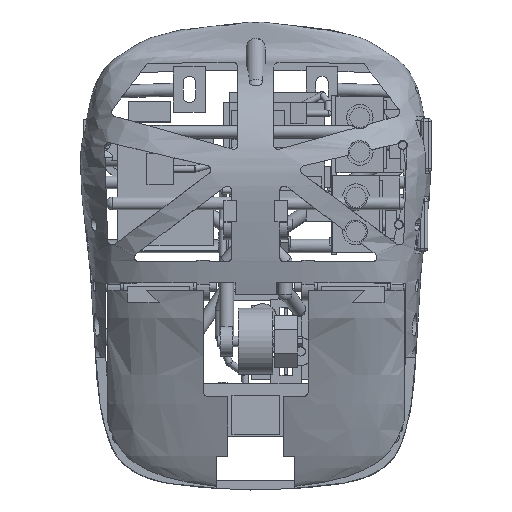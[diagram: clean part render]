
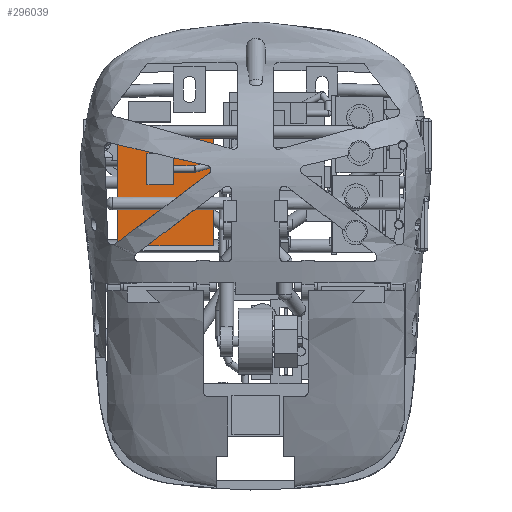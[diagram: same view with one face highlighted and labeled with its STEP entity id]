
A CAD part, top view. The second image highlights one B-rep face of the part: STEP entity #296039.
In plain terms, the highlighted planar face has unit normal (0, 0, 1).
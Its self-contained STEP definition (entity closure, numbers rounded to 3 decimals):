
#295725 = VERTEX_POINT('',#295726);
#295726 = CARTESIAN_POINT('',(-26.,46.,19.4));
#295733 = PLANE('',#295734);
#295734 = AXIS2_PLACEMENT_3D('',#295735,#295736,#295737);
#295735 = CARTESIAN_POINT('',(-26.,46.,13.4));
#295736 = DIRECTION('',(1.,0.,0.));
#295737 = DIRECTION('',(0.,0.,1.));
#295745 = PLANE('',#295746);
#295746 = AXIS2_PLACEMENT_3D('',#295747,#295748,#295749);
#295747 = CARTESIAN_POINT('',(-26.,46.,13.4));
#295748 = DIRECTION('',(0.,1.,0.));
#295749 = DIRECTION('',(0.,0.,1.));
#295786 = VERTEX_POINT('',#295787);
#295787 = CARTESIAN_POINT('',(-26.,68.,19.4));
#295801 = PLANE('',#295802);
#295802 = AXIS2_PLACEMENT_3D('',#295803,#295804,#295805);
#295803 = CARTESIAN_POINT('',(-26.,68.,13.4));
#295804 = DIRECTION('',(0.,1.,0.));
#295805 = DIRECTION('',(0.,0.,1.));
#295813 = EDGE_CURVE('',#295725,#295786,#295814,.T.);
#295814 = SURFACE_CURVE('',#295815,(#295819,#295826),.PCURVE_S1.);
#295815 = LINE('',#295816,#295817);
#295816 = CARTESIAN_POINT('',(-26.,46.,19.4));
#295817 = VECTOR('',#295818,1.);
#295818 = DIRECTION('',(0.,1.,0.));
#295819 = PCURVE('',#295733,#295820);
#295820 = DEFINITIONAL_REPRESENTATION('',(#295821),#295825);
#295821 = LINE('',#295822,#295823);
#295822 = CARTESIAN_POINT('',(6.,0.));
#295823 = VECTOR('',#295824,1.);
#295824 = DIRECTION('',(0.,-1.));
#295825 = ( GEOMETRIC_REPRESENTATION_CONTEXT(2) 
PARAMETRIC_REPRESENTATION_CONTEXT() REPRESENTATION_CONTEXT('2D SPACE',''
  ) );
#295826 = PCURVE('',#295827,#295832);
#295827 = PLANE('',#295828);
#295828 = AXIS2_PLACEMENT_3D('',#295829,#295830,#295831);
#295829 = CARTESIAN_POINT('',(-26.,46.,19.4));
#295830 = DIRECTION('',(0.,0.,1.));
#295831 = DIRECTION('',(1.,0.,0.));
#295832 = DEFINITIONAL_REPRESENTATION('',(#295833),#295837);
#295833 = LINE('',#295834,#295835);
#295834 = CARTESIAN_POINT('',(0.,0.));
#295835 = VECTOR('',#295836,1.);
#295836 = DIRECTION('',(0.,1.));
#295837 = ( GEOMETRIC_REPRESENTATION_CONTEXT(2) 
PARAMETRIC_REPRESENTATION_CONTEXT() REPRESENTATION_CONTEXT('2D SPACE',''
  ) );
#295845 = VERTEX_POINT('',#295846);
#295846 = CARTESIAN_POINT('',(-8.,46.,19.4));
#295853 = PLANE('',#295854);
#295854 = AXIS2_PLACEMENT_3D('',#295855,#295856,#295857);
#295855 = CARTESIAN_POINT('',(-8.,46.,13.4));
#295856 = DIRECTION('',(1.,0.,0.));
#295857 = DIRECTION('',(0.,0.,1.));
#295896 = VERTEX_POINT('',#295897);
#295897 = CARTESIAN_POINT('',(-8.,68.,19.4));
#295918 = EDGE_CURVE('',#295845,#295896,#295919,.T.);
#295919 = SURFACE_CURVE('',#295920,(#295924,#295931),.PCURVE_S1.);
#295920 = LINE('',#295921,#295922);
#295921 = CARTESIAN_POINT('',(-8.,46.,19.4));
#295922 = VECTOR('',#295923,1.);
#295923 = DIRECTION('',(0.,1.,0.));
#295924 = PCURVE('',#295853,#295925);
#295925 = DEFINITIONAL_REPRESENTATION('',(#295926),#295930);
#295926 = LINE('',#295927,#295928);
#295927 = CARTESIAN_POINT('',(6.,0.));
#295928 = VECTOR('',#295929,1.);
#295929 = DIRECTION('',(0.,-1.));
#295930 = ( GEOMETRIC_REPRESENTATION_CONTEXT(2) 
PARAMETRIC_REPRESENTATION_CONTEXT() REPRESENTATION_CONTEXT('2D SPACE',''
  ) );
#295931 = PCURVE('',#295827,#295932);
#295932 = DEFINITIONAL_REPRESENTATION('',(#295933),#295937);
#295933 = LINE('',#295934,#295935);
#295934 = CARTESIAN_POINT('',(18.,0.));
#295935 = VECTOR('',#295936,1.);
#295936 = DIRECTION('',(0.,1.));
#295937 = ( GEOMETRIC_REPRESENTATION_CONTEXT(2) 
PARAMETRIC_REPRESENTATION_CONTEXT() REPRESENTATION_CONTEXT('2D SPACE',''
  ) );
#295964 = EDGE_CURVE('',#295725,#295845,#295965,.T.);
#295965 = SURFACE_CURVE('',#295966,(#295970,#295977),.PCURVE_S1.);
#295966 = LINE('',#295967,#295968);
#295967 = CARTESIAN_POINT('',(-26.,46.,19.4));
#295968 = VECTOR('',#295969,1.);
#295969 = DIRECTION('',(1.,0.,0.));
#295970 = PCURVE('',#295745,#295971);
#295971 = DEFINITIONAL_REPRESENTATION('',(#295972),#295976);
#295972 = LINE('',#295973,#295974);
#295973 = CARTESIAN_POINT('',(6.,0.));
#295974 = VECTOR('',#295975,1.);
#295975 = DIRECTION('',(0.,1.));
#295976 = ( GEOMETRIC_REPRESENTATION_CONTEXT(2) 
PARAMETRIC_REPRESENTATION_CONTEXT() REPRESENTATION_CONTEXT('2D SPACE',''
  ) );
#295977 = PCURVE('',#295827,#295978);
#295978 = DEFINITIONAL_REPRESENTATION('',(#295979),#295983);
#295979 = LINE('',#295980,#295981);
#295980 = CARTESIAN_POINT('',(0.,0.));
#295981 = VECTOR('',#295982,1.);
#295982 = DIRECTION('',(1.,0.));
#295983 = ( GEOMETRIC_REPRESENTATION_CONTEXT(2) 
PARAMETRIC_REPRESENTATION_CONTEXT() REPRESENTATION_CONTEXT('2D SPACE',''
  ) );
#296011 = EDGE_CURVE('',#295786,#295896,#296012,.T.);
#296012 = SURFACE_CURVE('',#296013,(#296017,#296024),.PCURVE_S1.);
#296013 = LINE('',#296014,#296015);
#296014 = CARTESIAN_POINT('',(-26.,68.,19.4));
#296015 = VECTOR('',#296016,1.);
#296016 = DIRECTION('',(1.,0.,0.));
#296017 = PCURVE('',#295801,#296018);
#296018 = DEFINITIONAL_REPRESENTATION('',(#296019),#296023);
#296019 = LINE('',#296020,#296021);
#296020 = CARTESIAN_POINT('',(6.,0.));
#296021 = VECTOR('',#296022,1.);
#296022 = DIRECTION('',(0.,1.));
#296023 = ( GEOMETRIC_REPRESENTATION_CONTEXT(2) 
PARAMETRIC_REPRESENTATION_CONTEXT() REPRESENTATION_CONTEXT('2D SPACE',''
  ) );
#296024 = PCURVE('',#295827,#296025);
#296025 = DEFINITIONAL_REPRESENTATION('',(#296026),#296030);
#296026 = LINE('',#296027,#296028);
#296027 = CARTESIAN_POINT('',(0.,22.));
#296028 = VECTOR('',#296029,1.);
#296029 = DIRECTION('',(1.,0.));
#296030 = ( GEOMETRIC_REPRESENTATION_CONTEXT(2) 
PARAMETRIC_REPRESENTATION_CONTEXT() REPRESENTATION_CONTEXT('2D SPACE',''
  ) );
#296039 = ADVANCED_FACE('',(#296040),#295827,.T.);
#296040 = FACE_BOUND('',#296041,.T.);
#296041 = EDGE_LOOP('',(#296042,#296043,#296044,#296045));
#296042 = ORIENTED_EDGE('',*,*,#295813,.F.);
#296043 = ORIENTED_EDGE('',*,*,#295964,.T.);
#296044 = ORIENTED_EDGE('',*,*,#295918,.T.);
#296045 = ORIENTED_EDGE('',*,*,#296011,.F.);
